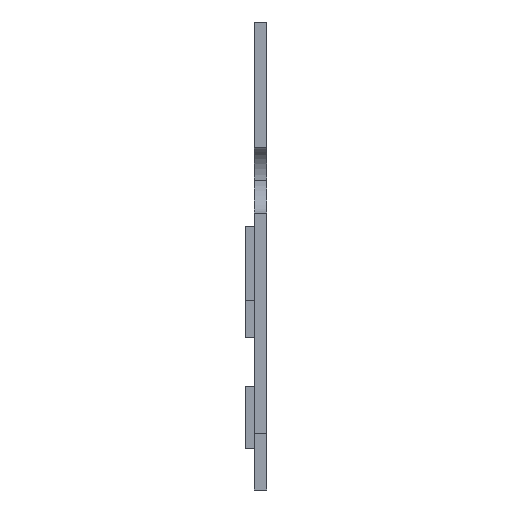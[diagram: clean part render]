
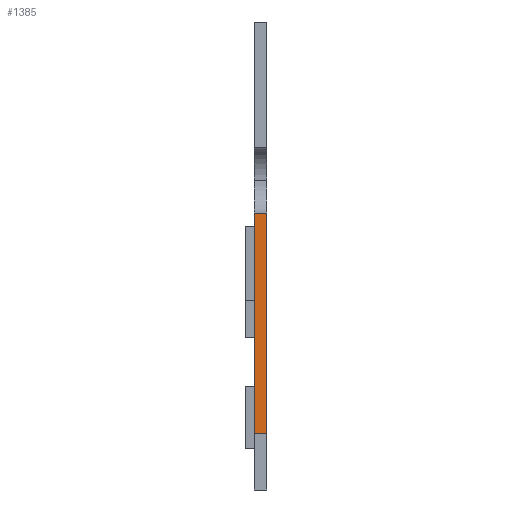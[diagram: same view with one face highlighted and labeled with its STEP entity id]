
A CAD part, left-side view. The second image highlights one B-rep face of the part: STEP entity #1385.
In plain terms, the highlighted planar face has unit normal (-1, 0, 0).
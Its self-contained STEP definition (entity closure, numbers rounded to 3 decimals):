
#48=DIRECTION('',(0.,0.,-1.));
#49=VECTOR('',#48,35.335);
#50=CARTESIAN_POINT('',(-68.,0.,6.835));
#51=LINE('',#50,#49);
#314=DIRECTION('',(0.,-1.,0.));
#315=VECTOR('',#314,2.);
#316=CARTESIAN_POINT('',(-68.,0.,-28.5));
#317=LINE('',#316,#315);
#318=DIRECTION('',(0.,-1.,0.));
#319=VECTOR('',#318,2.);
#320=CARTESIAN_POINT('',(-68.,0.,6.835));
#321=LINE('',#320,#319);
#408=DIRECTION('',(0.,0.,-1.));
#409=VECTOR('',#408,35.335);
#410=CARTESIAN_POINT('',(-68.,-2.,6.835));
#411=LINE('',#410,#409);
#971=CARTESIAN_POINT('',(-68.,0.,6.835));
#972=VERTEX_POINT('',#971);
#977=CARTESIAN_POINT('',(-68.,0.,-28.5));
#978=VERTEX_POINT('',#977);
#989=CARTESIAN_POINT('',(-68.,-2.,6.835));
#990=VERTEX_POINT('',#989);
#995=CARTESIAN_POINT('',(-68.,-2.,-28.5));
#996=VERTEX_POINT('',#995);
#1372=CARTESIAN_POINT('',(-68.,-1.,0.));
#1373=DIRECTION('',(-1.,0.,0.));
#1374=DIRECTION('',(0.,0.,1.));
#1375=AXIS2_PLACEMENT_3D('',#1372,#1373,#1374);
#1376=PLANE('',#1375);
#1378=ORIENTED_EDGE('',*,*,#1377,.T.);
#1380=ORIENTED_EDGE('',*,*,#1379,.T.);
#1381=ORIENTED_EDGE('',*,*,#1364,.F.);
#1382=ORIENTED_EDGE('',*,*,#1086,.F.);
#1383=EDGE_LOOP('',(#1378,#1380,#1381,#1382));
#1384=FACE_OUTER_BOUND('',#1383,.F.);
#1385=ADVANCED_FACE('',(#1384),#1376,.T.);
#1086=EDGE_CURVE('',#972,#978,#51,.T.);
#1364=EDGE_CURVE('',#978,#996,#317,.T.);
#1377=EDGE_CURVE('',#972,#990,#321,.T.);
#1379=EDGE_CURVE('',#990,#996,#411,.T.);
